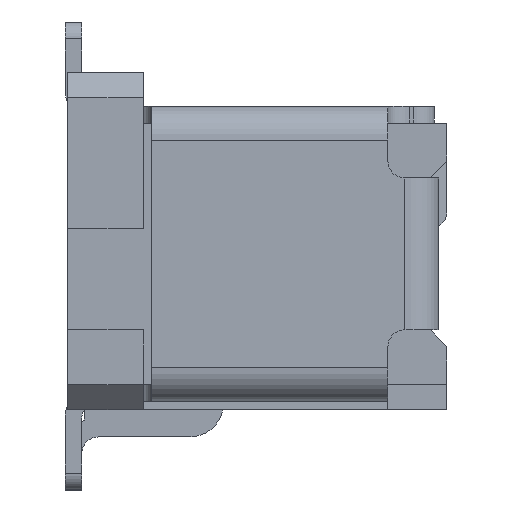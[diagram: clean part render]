
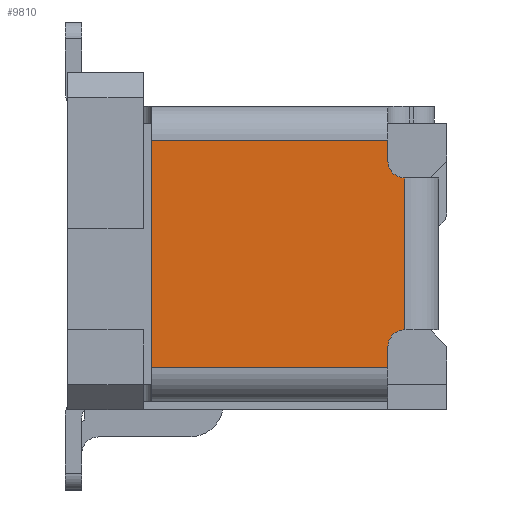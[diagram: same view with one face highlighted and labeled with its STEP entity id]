
A CAD part, left-side view. The second image highlights one B-rep face of the part: STEP entity #9810.
In plain terms, the highlighted planar face has unit normal (-1, 0, 0).
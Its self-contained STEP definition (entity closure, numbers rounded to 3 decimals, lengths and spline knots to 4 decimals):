
#6220=CARTESIAN_POINT('',(-34.8363,-2.426,
0.18));
#6230=VERTEX_POINT('',#6220);
#6260=CARTESIAN_POINT('',(-34.8363,-2.426,
0.58));
#6270=DIRECTION('',(0.,0.,1.));
#6280=VECTOR('',#6270,1.);
#6290=LINE('',#6260,#6280);
#6300=CARTESIAN_POINT('',(-34.8363,-2.426,
-0.07));
#6310=VERTEX_POINT('',#6300);
#6320=EDGE_CURVE('',#6310,#6230,#6290,.T.);
#7480=CARTESIAN_POINT('',(-34.8363,-5.226,
-2.52));
#7490=VERTEX_POINT('',#7480);
#7520=CARTESIAN_POINT('',(-34.8363,-5.226,
0.58));
#7530=DIRECTION('',(0.,0.,1.));
#7540=VECTOR('',#7530,1.);
#7550=LINE('',#7520,#7540);
#7560=CARTESIAN_POINT('',(-34.8363,-5.226,
0.18));
#7570=VERTEX_POINT('',#7560);
#7580=EDGE_CURVE('',#7490,#7570,#7550,.T.);
#8240=CARTESIAN_POINT('',(-34.8363,-2.426,
-2.52));
#8250=VERTEX_POINT('',#8240);
#8280=CARTESIAN_POINT('',(-34.8363,0.,
-2.52));
#8290=DIRECTION('',(0.,-1.,0.));
#8300=VECTOR('',#8290,1.);
#8310=LINE('',#8280,#8300);
#8320=EDGE_CURVE('',#8250,#7490,#8310,.T.);
#8430=CARTESIAN_POINT('',(-34.8363,-2.426,
0.58));
#8440=DIRECTION('',(-0.,0.,1.));
#8450=VECTOR('',#8440,1.);
#8460=LINE('',#8430,#8450);
#8470=CARTESIAN_POINT('',(-34.8363,-2.426,
-2.27));
#8480=VERTEX_POINT('',#8470);
#8490=EDGE_CURVE('',#8250,#8480,#8460,.T.);
#9280=CARTESIAN_POINT('',(-34.8363,-2.226,
-0.07));
#9290=DIRECTION('',(1.,0.,-0.));
#9300=DIRECTION('',(0.,-1.,0.));
#9310=AXIS2_PLACEMENT_3D('',#9280,#9290,#9300);
#9320=CIRCLE('',#9310,0.2);
#9330=CARTESIAN_POINT('',(-34.8363,-2.226,
-0.27));
#9340=VERTEX_POINT('',#9330);
#9350=EDGE_CURVE('',#6310,#9340,#9320,.T.);
#9480=CARTESIAN_POINT('',(-34.8363,-5.326,
-2.22));
#9490=DIRECTION('',(-1.,0.,0.));
#9500=DIRECTION('',(0.,1.,0.));
#9510=AXIS2_PLACEMENT_3D('',#9480,#9490,#9500);
#9520=PLANE('',#9510);
#9530=CARTESIAN_POINT('',(-34.8363,-2.226,
-2.27));
#9540=DIRECTION('',(-1.,0.,-0.));
#9550=DIRECTION('',(0.,1.,0.));
#9560=AXIS2_PLACEMENT_3D('',#9530,#9540,#9550);
#9570=CIRCLE('',#9560,0.2);
#9580=CARTESIAN_POINT('',(-34.8363,-2.226,
-2.07));
#9590=VERTEX_POINT('',#9580);
#9600=EDGE_CURVE('',#8480,#9590,#9570,.T.);
#9610=ORIENTED_EDGE('',*,*,#9600,.F.);
#9620=CARTESIAN_POINT('',(-34.8363,-2.226,
0.58));
#9630=DIRECTION('',(0.,0.,-1.));
#9640=VECTOR('',#9630,1.);
#9650=LINE('',#9620,#9640);
#9660=EDGE_CURVE('',#9340,#9590,#9650,.T.);
#9670=ORIENTED_EDGE('',*,*,#9660,.T.);
#9680=ORIENTED_EDGE('',*,*,#9350,.T.);
#9690=ORIENTED_EDGE('',*,*,#6320,.F.);
#9700=CARTESIAN_POINT('',(-34.8363,0.,
0.18));
#9710=DIRECTION('',(0.,-1.,0.));
#9720=VECTOR('',#9710,1.);
#9730=LINE('',#9700,#9720);
#9740=EDGE_CURVE('',#6230,#7570,#9730,.T.);
#9750=ORIENTED_EDGE('',*,*,#9740,.F.);
#9760=ORIENTED_EDGE('',*,*,#7580,.T.);
#9770=ORIENTED_EDGE('',*,*,#8320,.T.);
#9780=ORIENTED_EDGE('',*,*,#8490,.F.);
#9790=EDGE_LOOP('',(#9780,#9770,#9760,#9750,#9690,#9680,#9670,#9610));
#9800=FACE_OUTER_BOUND('',#9790,.T.);
#9810=ADVANCED_FACE('',(#9800),#9520,.T.);
